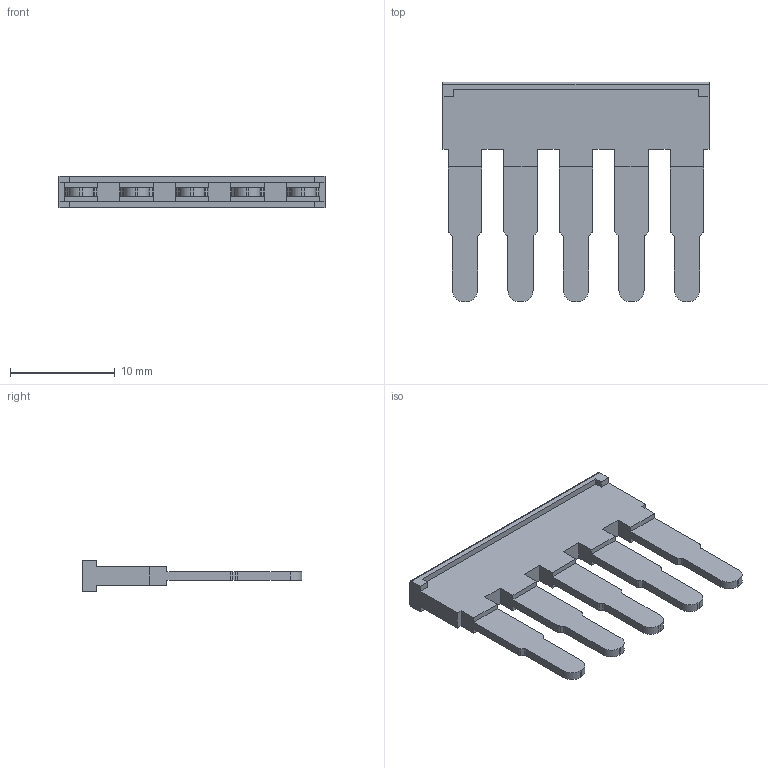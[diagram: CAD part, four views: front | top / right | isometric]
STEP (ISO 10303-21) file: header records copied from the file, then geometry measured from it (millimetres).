
FILE_DESCRIPTION(('Creo Elements/Direct Modeling STEP Export'),'2;1');
FILE_NAME('EFB0205R.stp','2019-07-26T14:06:42',(''),(''),'Creo Elements/Direct Modeling STEP processor for AP214 (Solid Model)','Creo Elements/Direct Modeling 20.1 10-Mar-2018 (C) Parametric Technology GmbH','');
FILE_SCHEMA(('AUTOMOTIVE_DESIGN { 1 0 10303 214 1 1 1 1 }'));
Length unit declared in the file: millimetre
Products named in the file (2): EFB0205R
Assembly tree (1 placements, depth 2):
  EFB0205R
    EFB0205R
Bounding box: 25.4 x 20.98 x 3 mm (x, y, z)
Volume: 506.2 mm3; surface area: 1038.4 mm2
Topology: 1 solids, 1 shells, 110 faces, 324 edges, 216 vertices
Faces by surface type: plane 78, cylinder 32
Entity records: 3992 total; most frequent: ORIENTED_EDGE 648, CARTESIAN_POINT 637, DIRECTION 592, EDGE_CURVE 324, VECTOR 250, LINE 250, VERTEX_POINT 216, AXIS2_PLACEMENT_3D 171
